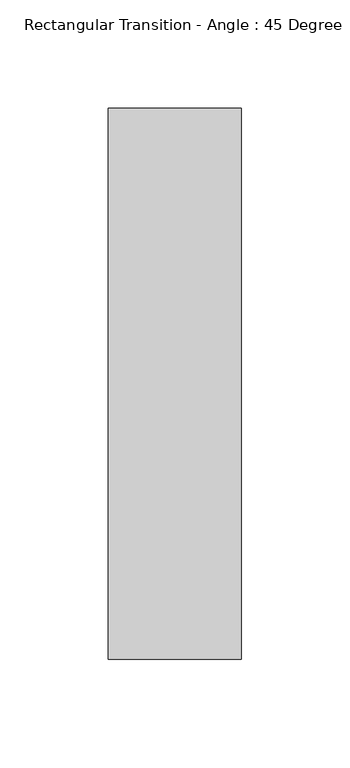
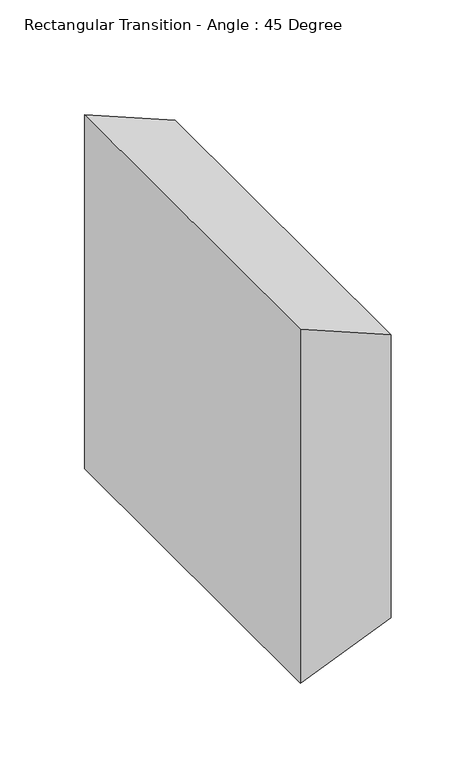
"""IFC4 building model written with IfcOpenShell, lengths in millimetres: duct fitting geometry, Rectangular Transition - Angle : 45 Degree."""

from ifc_helpers import new_model, si_unit, frame, origin, place, context, project, spatial, polyline, outline, extrude, source, transform, mapped, element, save


def rectangular_transition_angle_45_degree_c4f24900(model_context):
    return source(origin(), model_context, "Body", "SweptSolid", [
        extrude(outline(polyline([(127.0, 0.0), (-127.0, 0.0), (-101.6, 61.3210245), (101.6, 61.3210245), (127.0, 0.0)])), frame((0.0, -127.0, 0.0), z_axis=(0.0, 1.0, 0.0), x_axis=(0.0, 0.0, 1.0)), (0.0, 0.0, 1.0), 254.0),
    ])


if __name__ == "__main__":
    model = new_model("IFC4")
    model_context = context("Model", 3, world=origin())
    ifc_project = project(units=[si_unit("LENGTHUNIT", "METRE", prefix="MILLI")], contexts=[model_context])
    site = spatial("IfcSite", under=ifc_project)
    building = spatial("IfcBuilding", under=site)
    placement = place(None, origin())
    rectangular_transition_angle_45_degree_shape = rectangular_transition_angle_45_degree_c4f24900(model_context)
    element("IfcDuctFitting", 1, ObjectType="Rectangular Transition - Angle : 45 Degree", at=placement, inside=building, context=model_context, shape_type="MappedRepresentation", body=[
        mapped(rectangular_transition_angle_45_degree_shape, transform((0.0, 0.0, 0.0), x_axis=(1.0, 0.0, 0.0), y_axis=(0.0, 1.0, 0.0), z_axis=(0.0, 0.0, 1.0))),
    ])
    save(model, "model.ifc")
